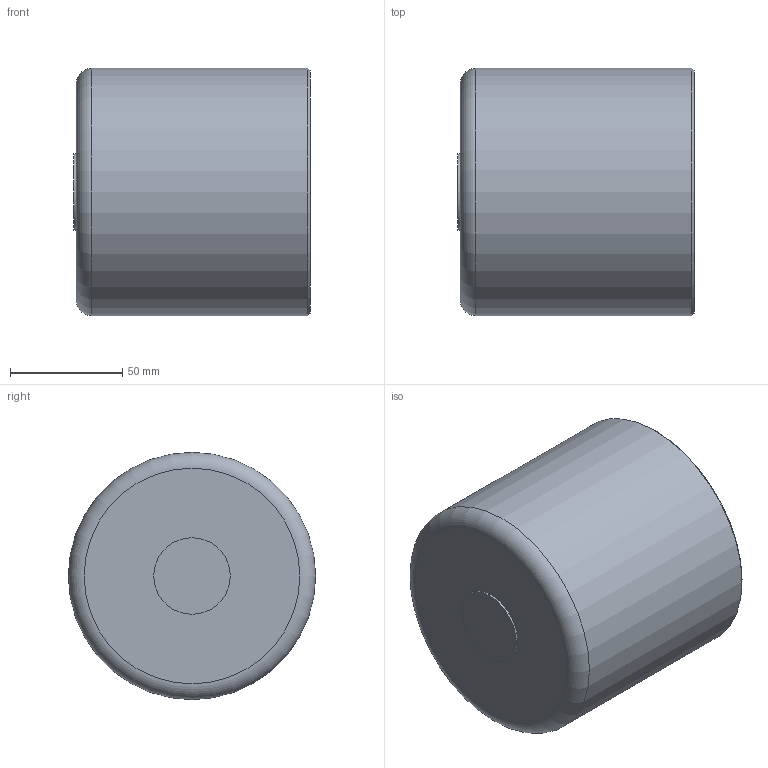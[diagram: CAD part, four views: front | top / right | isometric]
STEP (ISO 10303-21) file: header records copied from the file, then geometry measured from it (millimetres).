
FILE_DESCRIPTION(/* description */ ('Unknown'),/* implementation_level */ '2;1');
FILE_NAME(/* name */ 'CAP110C',/* time_stamp */ '2021-02-04T09:26:16+01:00',/* author */ ('Unknown'),/* organization */ ('Unknown'),/* preprocessor_version */ 'ST-DEVELOPER v16.7',/* originating_system */ 'Solid Edge',/* authorisation */ 'Unknown');
FILE_SCHEMA (('AUTOMOTIVE_DESIGN {1 0 10303 214 3 1 1}'));
Length unit declared in the file: millimetre
Products named in the file (1): CAP110C
Bounding box: 105 x 110 x 110 mm (x, y, z)
Volume: 417690.7 mm3; surface area: 78108.2 mm2
Topology: 1 solids, 1 shells, 10 faces, 16 edges, 10 vertices
Faces by surface type: plane 4, cylinder 3, torus 2, cone 1
Full cylindrical faces by diameter (mm): 34 x1, 90 x1, 110 x1
Entity records: 224 total; most frequent: DIRECTION 40, CARTESIAN_POINT 29, AXIS2_PLACEMENT_3D 20, ORIENTED_EDGE 18, EDGE_LOOP 18, FACE_BOUND 18, ADVANCED_FACE 10, EDGE_CURVE 9
